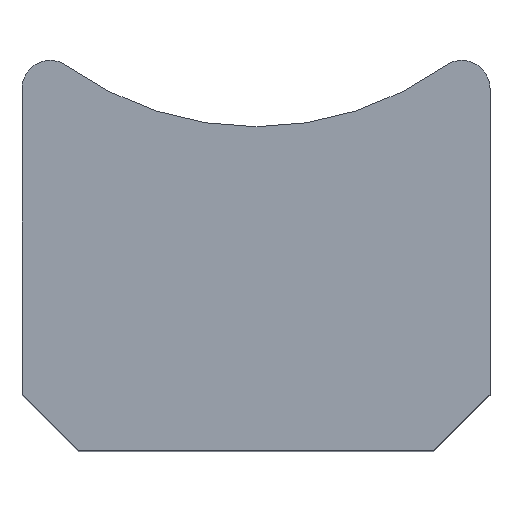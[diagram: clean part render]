
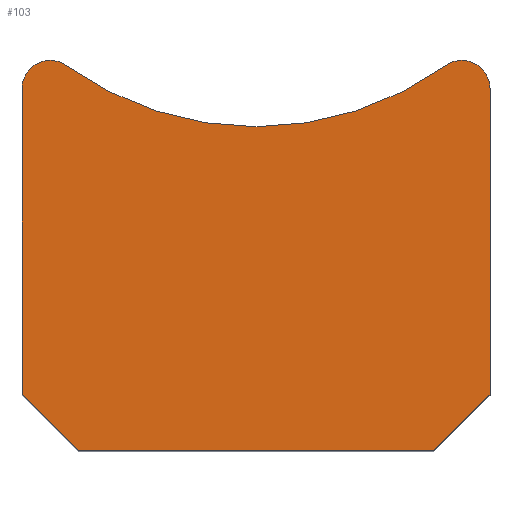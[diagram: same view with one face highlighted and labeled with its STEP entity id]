
A CAD part, top view. The second image highlights one B-rep face of the part: STEP entity #103.
In plain terms, the highlighted planar face has unit normal (0, 0, 1).
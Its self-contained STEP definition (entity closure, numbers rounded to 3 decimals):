
#1 = CARTESIAN_POINT ( 'NONE',  ( 3.358, 6.832, 3.25 ) ) ;
#2 = CARTESIAN_POINT ( 'NONE',  ( -3.358, 6.832, 3.25 ) ) ;
#4 = DIRECTION ( 'NONE',  ( 0., 0., 1. ) ) ;
#7 = DIRECTION ( 'NONE',  ( 1., 0., 0. ) ) ;
#11 = DIRECTION ( 'NONE',  ( 1., 0., 0. ) ) ;
#14 = CARTESIAN_POINT ( 'NONE',  ( -3.65, 6.427, 3.25 ) ) ;
#18 = VERTEX_POINT ( 'NONE', #242 ) ;
#20 = VERTEX_POINT ( 'NONE', #285 ) ;
#22 = CARTESIAN_POINT ( 'NONE',  ( -3.15, 0., 3.25 ) ) ;
#23 = CARTESIAN_POINT ( 'NONE',  ( -4.15, 1., 3.25 ) ) ;
#30 = CARTESIAN_POINT ( 'NONE',  ( -4.15, 0., 3.25 ) ) ;
#46 = CARTESIAN_POINT ( 'NONE',  ( -7.325, 4.175, 3.25 ) ) ;
#53 = DIRECTION ( 'NONE',  ( 0.707, 0.707, 0. ) ) ;
#55 = CARTESIAN_POINT ( 'NONE',  ( 7.325, 4.175, 3.25 ) ) ;
#61 = CARTESIAN_POINT ( 'NONE',  ( 0., 11.5, 3.25 ) ) ;
#62 = CARTESIAN_POINT ( 'NONE',  ( 4.15, 7.52, 3.25 ) ) ;
#63 = DIRECTION ( 'NONE',  ( 1., 0., 0. ) ) ;
#70 = DIRECTION ( 'NONE',  ( 0., 0., -1. ) ) ;
#80 = CARTESIAN_POINT ( 'NONE',  ( -4.15, 7.52, 3.25 ) ) ;
#81 = DIRECTION ( 'NONE',  ( 0., 1., 0. ) ) ;
#86 = VERTEX_POINT ( 'NONE', #304 ) ;
#101 = DIRECTION ( 'NONE',  ( 0., 0., 1. ) ) ;
#103 = ADVANCED_FACE ( 'NONE', ( #176 ), #288, .T. ) ;
#110 = DIRECTION ( 'NONE',  ( 0.707, -0.707, 0. ) ) ;
#118 = LINE ( 'NONE', #55, #193 ) ;
#120 = DIRECTION ( 'NONE',  ( 1., 0., 0. ) ) ;
#121 = DIRECTION ( 'NONE',  ( 0., -1., 0. ) ) ;
#132 = ORIENTED_EDGE ( 'NONE', *, *, #323, .T. ) ;
#134 = ORIENTED_EDGE ( 'NONE', *, *, #206, .T. ) ;
#142 = ORIENTED_EDGE ( 'NONE', *, *, #254, .T. ) ;
#143 = ORIENTED_EDGE ( 'NONE', *, *, #234, .T. ) ;
#147 = CIRCLE ( 'NONE', #274, 0.5 ) ;
#149 = ORIENTED_EDGE ( 'NONE', *, *, #247, .T. ) ;
#150 = ORIENTED_EDGE ( 'NONE', *, *, #313, .T. ) ;
#152 = EDGE_CURVE ( 'NONE', #196, #246, #147, .T. ) ;
#156 = ORIENTED_EDGE ( 'NONE', *, *, #152, .T. ) ;
#158 = AXIS2_PLACEMENT_3D ( 'NONE', #14, #4, #7 ) ;
#168 = ORIENTED_EDGE ( 'NONE', *, *, #265, .T. ) ;
#172 = DIRECTION ( 'NONE',  ( 0., 0., 1. ) ) ;
#175 = DIRECTION ( 'NONE',  ( 1., 0., 0. ) ) ;
#176 = FACE_OUTER_BOUND ( 'NONE', #190, .T. ) ;
#187 = CARTESIAN_POINT ( 'NONE',  ( 3.65, 6.427, 3.25 ) ) ;
#190 = EDGE_LOOP ( 'NONE', ( #168, #156, #150, #143, #149, #142, #134, #132 ) ) ;
#193 = VECTOR ( 'NONE', #53, 1000. ) ;
#196 = VERTEX_POINT ( 'NONE', #210 ) ;
#203 = VERTEX_POINT ( 'NONE', #22 ) ;
#206 = EDGE_CURVE ( 'NONE', #203, #18, #229, .T. ) ;
#209 = VERTEX_POINT ( 'NONE', #2 ) ;
#210 = CARTESIAN_POINT ( 'NONE',  ( 4.15, 6.427, 3.25 ) ) ;
#211 = AXIS2_PLACEMENT_3D ( 'NONE', #61, #70, #63 ) ;
#218 = VERTEX_POINT ( 'NONE', #23 ) ;
#225 = LINE ( 'NONE', #62, #231 ) ;
#229 = LINE ( 'NONE', #30, #257 ) ;
#231 = VECTOR ( 'NONE', #81, 1000. ) ;
#234 = EDGE_CURVE ( 'NONE', #209, #86, #336, .T. ) ;
#242 = CARTESIAN_POINT ( 'NONE',  ( 3.15, 0., 3.25 ) ) ;
#246 = VERTEX_POINT ( 'NONE', #1 ) ;
#247 = EDGE_CURVE ( 'NONE', #86, #218, #306, .T. ) ;
#250 = VECTOR ( 'NONE', #110, 1000. ) ;
#251 = AXIS2_PLACEMENT_3D ( 'NONE', #271, #101, #120 ) ;
#254 = EDGE_CURVE ( 'NONE', #218, #203, #302, .T. ) ;
#257 = VECTOR ( 'NONE', #11, 1000. ) ;
#265 = EDGE_CURVE ( 'NONE', #20, #196, #225, .T. ) ;
#271 = CARTESIAN_POINT ( 'NONE',  ( 0., 11.5, 3.25 ) ) ;
#274 = AXIS2_PLACEMENT_3D ( 'NONE', #187, #172, #175 ) ;
#285 = CARTESIAN_POINT ( 'NONE',  ( 4.15, 1., 3.25 ) ) ;
#288 = PLANE ( 'NONE',  #251 ) ;
#294 = VECTOR ( 'NONE', #121, 1000. ) ;
#302 = LINE ( 'NONE', #46, #250 ) ;
#304 = CARTESIAN_POINT ( 'NONE',  ( -4.15, 6.427, 3.25 ) ) ;
#306 = LINE ( 'NONE', #80, #294 ) ;
#313 = EDGE_CURVE ( 'NONE', #246, #209, #320, .T. ) ;
#320 = CIRCLE ( 'NONE', #211, 5.75 ) ;
#323 = EDGE_CURVE ( 'NONE', #18, #20, #118, .T. ) ;
#336 = CIRCLE ( 'NONE', #158, 0.5 ) ;
